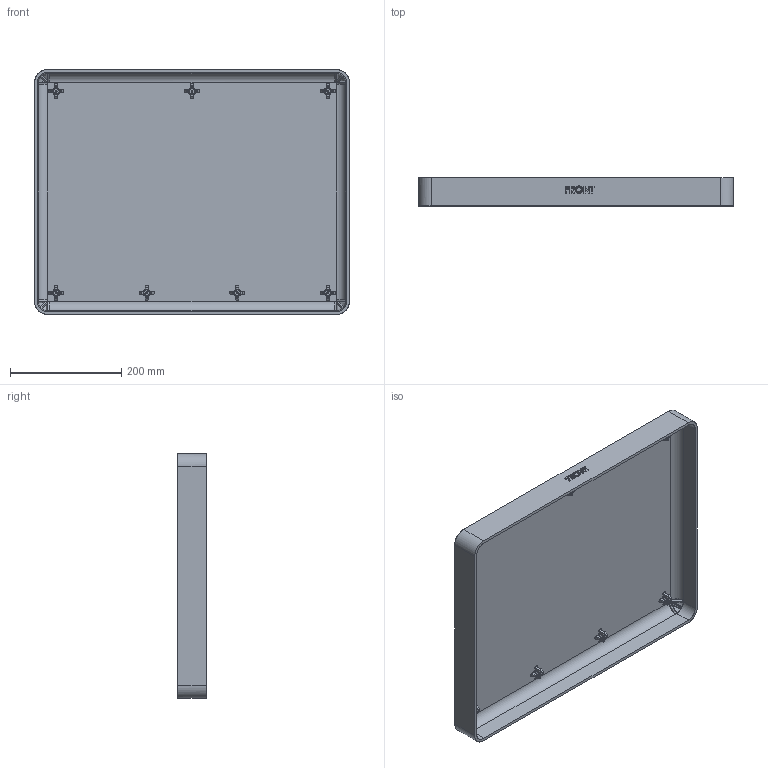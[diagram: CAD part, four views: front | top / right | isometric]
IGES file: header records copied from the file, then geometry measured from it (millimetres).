
Start section: SolidWorks IGES file using analytic representation for surfaces
Global section: file name: C:\temp\EU files dimensions 12-14-15\EU case files in pdf and DXF format\1600 Peli Case top.IGS; native system: SolidWorks 2014; preprocessor: SolidWorks 2014; author: mhakami; date: 160112.103730; units: inch
Bounding box: 566.67 x 50.8 x 440.56 mm (x, y, z)
Surface area: 676647.8 mm2 (no closed solid volume)
Topology: 0 solids, 0 shells, 865 faces, 7083 edges, 6971 vertices
Faces by surface type: bspline 574, revolution 291
